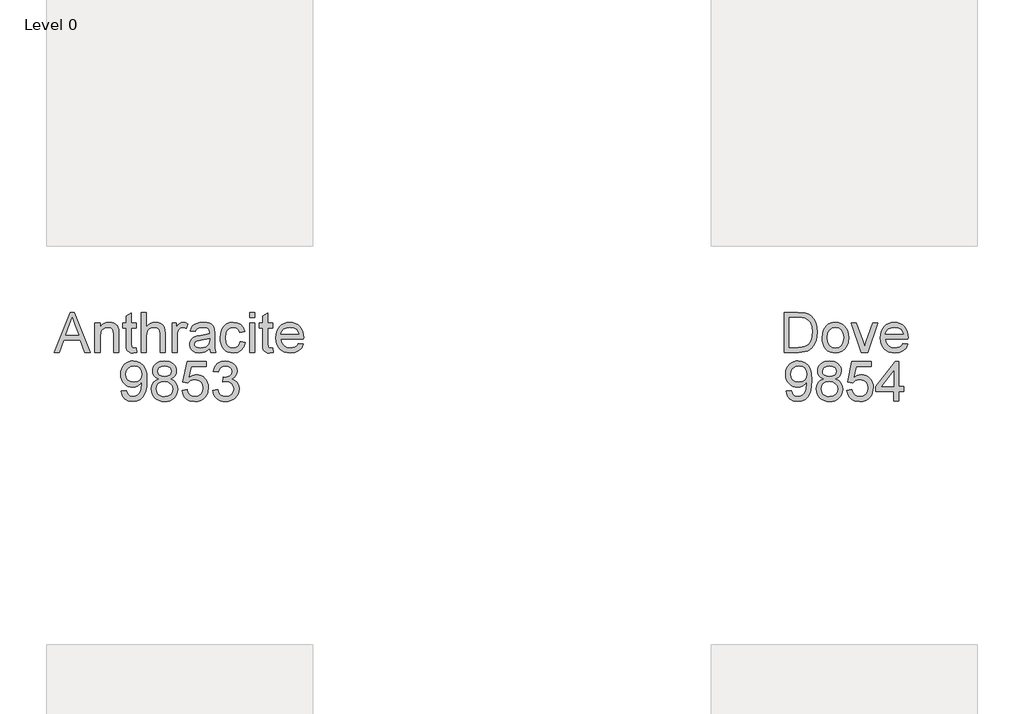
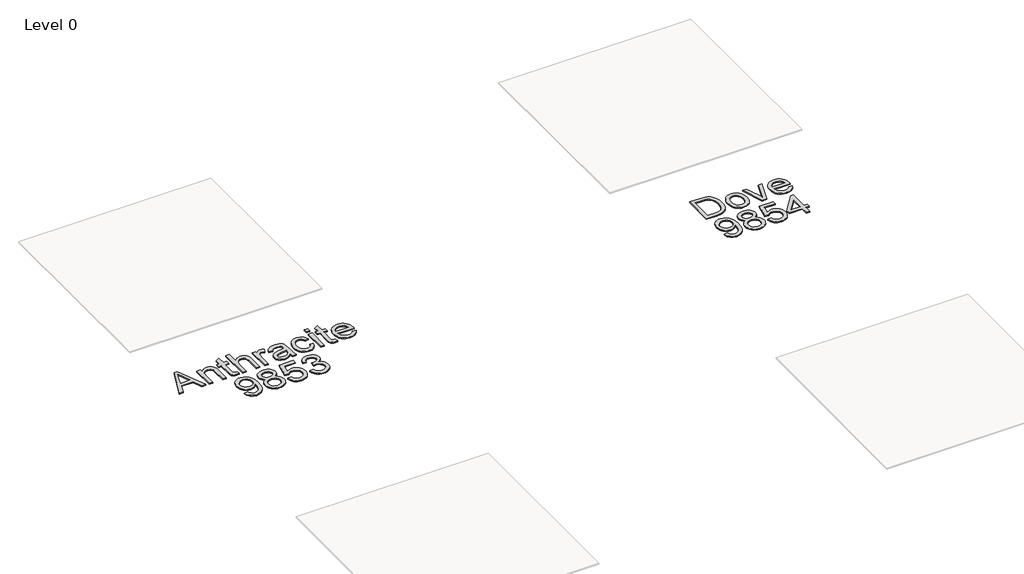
# One storey, part 6 of 8: 2 proxies.
"""IFC4 building model written with IfcOpenShell, lengths in millimetres."""

from ifc_helpers import new_model, si_unit, origin, origin_with_axes, place, context, project, spatial, polyline, outline, extrude, element, save

model = new_model("IFC4")

# Units and contexts
model_context = context("Model", 3, world=origin())
ifc_project = project(units=[si_unit("LENGTHUNIT", "METRE", prefix="MILLI")], contexts=[model_context])

# Site, building, storey
site = spatial("IfcSite", under=ifc_project)
building = spatial("IfcBuilding", under=site)
storey = spatial("IfcBuildingStorey", under=building, Name="Level 0", Elevation=0.0)

# Proxies
placement = place(None, origin())
element("IfcBuildingElementProxy", 1, Name="300mm Arial", ObjectType="300mm Arial", at=placement, inside=storey, context=model_context, shape_type="SweptSolid", body=[
    extrude(outline(polyline([(-394.5696795, -7002.860494), (-274.2722671, -6701.4915635), (-242.1929571, -6701.4915635), (-121.8955447, -7002.860494), (-161.7003766, -7002.860494), (-196.2077077, -6908.6827032), (-320.3310929, -6908.6827032), (-354.7648477, -7002.860494), (-394.5696795, -7002.860494)]), holes=[polyline([(-306.4987299, -6871.0115869), (-209.9664944, -6871.0115869), (-237.1161856, -6796.9201531), (-258.2326121, -6739.1626798), (-276.9945939, -6790.44543), (-306.4987299, -6871.0115869)])]), origin_with_axes(), (0.0, 0.0, 1.0), 10.0),
    extrude(outline(polyline([(-86.358144, -7002.860494), (-86.358144, -6781.5426857), (-48.6870277, -6781.5426857), (-48.6870277, -6812.4447733), (-35.5996257, -6796.8649708), (-19.8818674, -6785.7365404), (-1.5337529, -6779.0594822), (19.4447178, -6776.8337961), (38.0135615, -6778.6272209), (55.0189068, -6784.0074951), (69.2007577, -6792.303234), (79.2991185, -6802.8430532), (90.5930957, -6830.5445674), (92.5796585, -6866.964885), (92.5796585, -7002.860494), (54.9085422, -7002.860494), (54.9085422, -6872.0416565), (50.5675346, -6838.7115477), (44.5618611, -6828.7879309), (35.2268554, -6821.0900002), (23.2614935, -6816.1511844), (9.3647512, -6814.5049125), (-12.6989715, -6818.2021265), (-31.5069385, -6829.2937687), (-39.0232275, -6838.3482643), (-44.3920054, -6850.7228949), (-48.6870277, -6885.4325611), (-48.6870277, -7002.860494), (-86.358144, -7002.860494)])), origin_with_axes(), (0.0, 0.0, 1.0), 10.0),
    extrude(outline(polyline([(224.4285656, -6971.4433716), (229.1374551, -7003.96414), (200.9576943, -7007.5693835), (182.8762942, -7006.005885), (169.3934191, -7001.3153896), (159.8652754, -6994.0865084), (153.6480697, -6984.9078526), (150.2267671, -6969.1441091), (149.0863329, -6942.1599648), (149.0863329, -6819.213802), (120.8329957, -6819.213802), (120.8329957, -6781.5426857), (149.0863329, -6781.5426857), (149.0863329, -6727.758338), (186.7574492, -6705.6118419), (186.7574492, -6781.5426857), (224.4285656, -6781.5426857), (224.4285656, -6819.213802), (186.7574492, -6819.213802), (186.7574492, -6941.0563188), (188.744012, -6960.4804881), (195.1819469, -6967.3598814), (208.0210286, -6969.8982672), (224.4285656, -6971.4433716)])), origin_with_axes(), (0.0, 0.0, 1.0), 10.0),
    extrude(outline(polyline([(262.0996819, -7002.860494), (262.0996819, -6701.4915635), (299.7707982, -6701.4915635), (299.7707982, -6812.2976205), (313.6077597, -6796.7821973), (329.1461755, -6785.6997522), (346.3860455, -6779.0502852), (365.3273697, -6776.8337961), (388.0808711, -6779.2526203), (407.6337992, -6786.5090926), (423.0296606, -6798.0329961), (433.3119624, -6813.2541137), (439.1061038, -6834.1682051), (441.0374843, -6862.7710302), (441.0374843, -7002.860494), (403.366368, -7002.860494), (403.366368, -6866.6705794), (400.3681297, -6843.0893435), (391.373415, -6826.9393239), (376.8788644, -6817.6135153), (357.3811186, -6814.5049125), (341.4610253, -6816.6018398), (326.5158192, -6822.8926219), (314.1365901, -6832.7702535), (305.9144275, -6845.6277292), (301.3067055, -6862.7158479), (299.7707982, -6885.2854083), (299.7707982, -7002.860494), (262.0996819, -7002.860494)])), origin_with_axes(), (0.0, 0.0, 1.0), 10.0),
    extrude(outline(polyline([(492.8352692, -7002.860494), (492.8352692, -6781.5426857), (525.797496, -6781.5426857), (525.797496, -6814.2841833), (537.97439, -6795.3014723), (549.1947909, -6784.1178596), (560.4519799, -6778.654812), (572.7392386, -6776.8337961), (591.5012203, -6779.7400639), (610.5575077, -6788.4588672), (597.9759435, -6822.2304343), (584.7321916, -6816.4362929), (571.4884398, -6814.5049125), (560.2404478, -6816.3627165), (550.1880723, -6821.9361288), (542.0670772, -6830.8020848), (536.6132267, -6842.5375205), (532.0330958, -6863.5803706), (530.5063855, -6886.5362071), (530.5063855, -7002.860494), (492.8352692, -7002.860494)])), origin_with_axes(), (0.0, 0.0, 1.0), 10.0),
    extrude(outline(polyline([(775.3686415, -6974.6071568), (757.3700149, -6990.0398064), (738.8379594, -7000.1381672), (719.3494107, -7005.7115794), (698.4813045, -7007.5693835), (666.9998028, -7003.0996173), (643.7772519, -6989.6903186), (629.4574452, -6969.3280501), (624.6841763, -6943.9993748), (626.4867981, -6928.3827841), (631.8946634, -6914.2009331), (640.2363877, -6902.0608273), (650.8405862, -6892.5694718), (677.2177252, -6880.2086368), (709.81207, -6874.5432541), (748.3293149, -6868.5835657), (775.1479123, -6861.5938078), (775.3686415, -6853.2060983), (772.7750735, -6836.3938912), (764.9943693, -6825.3942195), (747.5935509, -6817.2272392), (723.3501274, -6814.5049125), (700.9093257, -6816.3167313), (685.2375527, -6821.7521878), (674.5505808, -6831.8045633), (667.0641821, -6847.4671392), (629.3930658, -6842.7582497), (635.9321683, -6822.156858), (645.6902382, -6805.9700502), (659.5777835, -6793.590821), (678.5053122, -6784.4121652), (701.6542867, -6778.7283884), (728.2061697, -6776.8337961), (753.6728009, -6778.5076592), (773.8603253, -6783.5292485), (789.0814429, -6791.0800264), (799.6488532, -6800.3414556), (806.6570052, -6811.7917827), (811.2003479, -6825.9092543), (813.0397578, -6858.8714811), (813.0397578, -6905.7396473), (814.9527442, -6971.1858542), (822.4575369, -7002.860494), (784.7864206, -7002.860494), (775.3686415, -6974.6071568)]), holes=[polyline([(775.3686415, -6899.2649241), (714.5945359, -6910.8164188), (682.1841322, -6916.9232599), (667.5056405, -6926.8560738), (662.3552926, -6941.3506244), (665.1603928, -6952.5526311), (673.5756935, -6961.7312869), (687.4172535, -6967.8565221), (706.501132, -6969.8982672), (726.7346418, -6967.64499), (744.6137067, -6960.8851583), (759.1082573, -6950.9247533), (769.188224, -6939.069756), (773.6579903, -6926.8560738), (775.1479123, -6909.933502), (775.3686415, -6899.2649241)])]), origin_with_axes(), (0.0, 0.0, 1.0), 10.0),
    extrude(outline(polyline([(1006.1042289, -6922.8093718), (1043.7753452, -6927.5182614), (1033.2723142, -6961.0231141), (1013.5354452, -6986.3425924), (986.4225422, -7002.2626857), (953.7914092, -7007.5693835), (932.6634864, -7005.7184772), (913.7198629, -7000.1657584), (896.9605387, -6990.9112269), (882.3855139, -6977.9548829), (870.5879982, -6961.5404481), (862.1612012, -6941.9116444), (857.1051231, -6919.0684718), (855.4197637, -6893.0109302), (858.2984403, -6859.4876834), (866.9344701, -6830.4342028), (881.4658089, -6806.9725286), (902.0304125, -6790.2247008), (926.6325209, -6780.1815223), (953.2763744, -6776.8337961), (985.107364, -6781.4323211), (1010.555601, -6795.2278959), (1028.8117451, -6817.4847566), (1039.0664557, -6847.4671392), (1001.3953394, -6852.1760288), (994.5619313, -6835.7409006), (983.9209446, -6823.9594797), (970.0609904, -6816.8685543), (953.57068, -6814.5049125), (929.226089, -6819.1586197), (909.9030872, -6833.1197414), (897.2939318, -6857.1424357), (893.09088, -6891.9808606), (897.2019613, -6927.2883351), (909.5352052, -6951.3938029), (928.5087191, -6965.2721511), (952.5406104, -6969.8982672), (972.0475532, -6967.0103936), (988.0412229, -6958.3467726), (999.675491, -6943.6866751), (1006.1042289, -6922.8093718)])), origin_with_axes(), (0.0, 0.0, 1.0), 10.0),
    extrude(outline(polyline([(1076.737572, -6739.1626798), (1076.737572, -6701.4915635), (1114.4086883, -6701.4915635), (1114.4086883, -6739.1626798), (1076.737572, -6739.1626798)])), origin_with_axes(), (0.0, 0.0, 1.0), 10.0),
    extrude(outline(polyline([(1076.737572, -7002.860494), (1076.737572, -6781.5426857), (1114.4086883, -6781.5426857), (1114.4086883, -7002.860494), (1076.737572, -7002.860494)])), origin_with_axes(), (0.0, 0.0, 1.0), 10.0),
    extrude(outline(polyline([(1250.9664849, -6971.4433716), (1255.6753744, -7003.96414), (1227.4956136, -7007.5693835), (1209.4142135, -7006.005885), (1195.9313384, -7001.3153896), (1186.4031947, -6994.0865084), (1180.185989, -6984.9078526), (1176.7646865, -6969.1441091), (1175.6242523, -6942.1599648), (1175.6242523, -6819.213802), (1147.3709151, -6819.213802), (1147.3709151, -6781.5426857), (1175.6242523, -6781.5426857), (1175.6242523, -6727.758338), (1213.2953686, -6705.6118419), (1213.2953686, -6781.5426857), (1250.9664849, -6781.5426857), (1250.9664849, -6819.213802), (1213.2953686, -6819.213802), (1213.2953686, -6941.0563188), (1215.2819314, -6960.4804881), (1221.7198663, -6967.3598814), (1234.5589479, -6969.8982672), (1250.9664849, -6971.4433716)])), origin_with_axes(), (0.0, 0.0, 1.0), 10.0),
    extrude(outline(polyline([(1443.5894976, -6936.9360404), (1480.5248499, -6941.64493), (1467.2167187, -6969.4752029), (1445.9807305, -6990.2789297), (1417.295132, -7003.2467701), (1381.6381696, -7007.5693835), (1358.2638673, -7005.7046817), (1337.4371479, -7000.1105761), (1319.1580112, -6990.7870668), (1303.4264574, -6977.7341537), (1290.7759153, -6961.3151204), (1281.7398138, -6941.8932503), (1276.3181529, -6919.4685435), (1274.5109326, -6894.0409998), (1276.336547, -6867.7512327), (1281.8133902, -6844.5792656), (1290.9414622, -6824.5250983), (1303.720763, -6807.5887309), (1319.4109301, -6794.133447), (1337.271601, -6784.5225298), (1357.3027756, -6778.7559796), (1379.504454, -6776.8337961), (1400.9910618, -6778.751381), (1420.4221289, -6784.5041357), (1437.7976554, -6794.0920602), (1453.1176412, -6807.5151545), (1465.6233298, -6824.4147337), (1474.5559645, -6844.4321128), (1479.9155453, -6867.5672917), (1481.7020723, -6893.8202706), (1481.4813431, -6903.9738137), (1312.1820489, -6903.9738137), (1318.7027573, -6932.1719686), (1333.8502984, -6952.902119), (1355.711686, -6965.6492302), (1382.3739336, -6969.8982672), (1402.4235023, -6967.9300985), (1419.3092859, -6962.0255925), (1433.0312843, -6951.8168672), (1443.5894976, -6936.9360404)]), holes=[polyline([(1312.1820489, -6866.3026974), (1444.030956, -6866.3026974), (1438.9357903, -6846.4002814), (1428.9477942, -6832.1632482), (1406.985239, -6818.9194964), (1379.3573012, -6814.5049125), (1353.9642465, -6818.0273826), (1332.9673816, -6828.5947929), (1318.3716635, -6845.0667092), (1312.1820489, -6866.3026974)])]), origin_with_axes(), (0.0, 0.0, 1.0), 10.0),
    extrude(outline(polyline([(111.4152166, -7293.4427149), (149.0863329, -7288.7338254), (155.5242679, -7310.1169663), (166.0089047, -7324.6758963), (180.2827261, -7333.0360146), (198.0882147, -7335.8227207), (214.0634903, -7334.029296), (228.5856321, -7328.6490218), (240.6521615, -7320.2705094), (249.2606002, -7309.4823699), (261.5846471, -7276.7408723), (267.0293006, -7233.0364913), (266.8085714, -7225.6788514), (253.7579576, -7241.6081418), (236.679036, -7254.2264942), (216.8042112, -7262.4486568), (195.3658879, -7265.1893777), (177.4707281, -7263.5155146), (161.0149066, -7258.4939254), (145.9984234, -7250.12461), (132.4212786, -7238.4075684), (121.1709873, -7223.9544045), (113.135065, -7207.3767221), (108.3135116, -7188.6745212), (106.7063271, -7167.8478018), (108.3916865, -7146.326705), (113.4477647, -7127.0129003), (121.8745616, -7109.9063875), (133.6720773, -7095.0071667), (148.0079788, -7082.9360387), (164.0499331, -7074.3138045), (181.7979401, -7069.1404639), (201.2519999, -7067.4160171), (229.3489872, -7071.3523544), (254.925983, -7083.1613665), (276.318321, -7102.254442), (291.8613353, -7128.0429699), (301.3250996, -7163.6907352), (304.4796877, -7212.3615232), (301.3342966, -7263.96617), (291.8981235, -7303.8537754), (276.2539416, -7333.8269609), (254.4845246, -7355.6883485), (227.5279714, -7369.0424649), (196.3223811, -7373.4938371), (164.1143124, -7368.2423216), (138.4177551, -7352.4877751), (120.4467196, -7327.2234791), (111.4152166, -7293.4427149)]), holes=[polyline([(266.8085714, -7166.964885), (262.7434754, -7141.4338745), (250.5481872, -7121.788976), (231.6206586, -7109.262594), (207.358841, -7105.0871334), (182.1957125, -7109.5844908), (162.0357792, -7123.0765629), (148.7920273, -7143.7239399), (144.3774434, -7169.6872117), (148.552904, -7192.964945), (161.079286, -7211.4418182), (180.7425786, -7223.4991506), (206.3287714, -7227.5182614), (230.3974509, -7223.4991506), (249.775635, -7211.4418182), (262.5503373, -7192.2843633), (266.8085714, -7166.964885)])]), origin_with_axes(), (0.0, 0.0, 1.0), 10.0),
    extrude(outline(polyline([(392.3299082, -7202.7965913), (372.1607778, -7192.8637774), (358.006518, -7179.3992964), (349.6463997, -7162.6790597), (346.8596935, -7142.9789789), (348.3772068, -7127.6153071), (352.9297465, -7113.5300252), (360.5173126, -7100.7231332), (371.1399052, -7089.1946312), (384.287088, -7079.6664875), (399.4484248, -7072.8606706), (435.81356, -7067.4160171), (472.3994244, -7072.9894293), (487.726308, -7079.9561946), (501.0758259, -7089.709666), (511.8915566, -7101.4634957), (519.6170785, -7114.4313361), (524.2523916, -7128.613187), (525.797496, -7144.0090485), (523.0475781, -7163.0745329), (514.7978243, -7179.509661), (500.9562643, -7192.8913686), (481.4309274, -7202.7965913), (504.6166901, -7214.7435591), (521.4932767, -7232.3375155), (531.7847755, -7254.732332), (535.2152751, -7281.0818799), (533.5138209, -7299.8714528), (528.4094582, -7317.0975272), (519.902187, -7332.7601031), (507.9920074, -7346.8591806), (493.3043188, -7358.5118428), (476.4645204, -7366.8351729), (457.4726124, -7371.829171), (436.3285948, -7373.4938371), (415.1845771, -7371.8222732), (396.1926691, -7366.8075818), (379.3528708, -7358.4497627), (364.6651821, -7346.748816), (352.7550025, -7332.5508703), (344.2477314, -7316.702054), (339.1433687, -7299.2023674), (337.4419145, -7280.0518103), (341.0103698, -7252.6813898), (351.7157359, -7230.1670117), (369.0061897, -7213.2812282), (392.3299082, -7202.7965913)]), holes=[polyline([(375.1130308, -7278.7274351), (381.4038129, -7307.0911369), (390.1134191, -7319.2588339), (403.6606736, -7328.317928), (419.8842696, -7333.9465226), (436.6229004, -7335.8227207), (462.2642754, -7331.8771864), (481.5045038, -7320.0405832), (493.534245, -7302.1155329), (497.5441588, -7279.9046575), (493.4054863, -7257.316703), (480.989469, -7238.9961796), (461.3077822, -7226.8560738), (435.3721016, -7222.8093718), (410.0894115, -7226.8008915), (391.0423212, -7238.7754504), (379.0953534, -7256.7464859), (375.1130308, -7278.7274351)]), polyline([(384.5308099, -7144.0826249), (387.869339, -7160.52695), (397.8849263, -7173.6603373), (414.2832662, -7182.268776), (436.7700532, -7185.1382555), (458.7326083, -7182.2871701), (474.8826279, -7173.7339137), (484.8154417, -7161.0419848), (488.1263797, -7145.774882), (484.7050771, -7129.9283651), (474.4411695, -7116.822569), (458.0704207, -7108.0209923), (436.3285948, -7105.0871334), (414.4488131, -7107.9566129), (398.1056555, -7116.5650516), (387.9245213, -7129.1834041), (384.5308099, -7144.0826249)])]), origin_with_axes(), (0.0, 0.0, 1.0), 10.0),
    extrude(outline(polyline([(568.1775018, -7288.7338254), (605.8486182, -7284.0249358), (612.7647997, -7306.6404815), (624.8313291, -7322.8364863), (641.9930242, -7332.5761621), (664.1947026, -7335.8227207), (691.197241, -7331.3069693), (711.4307508, -7317.7597148), (724.0674973, -7296.7444558), (728.2797461, -7269.8246908), (724.3342117, -7244.4776213), (712.4976086, -7225.0902402), (692.6779661, -7212.7845875), (664.7833138, -7208.6827032), (646.5087757, -7210.3197781), (631.7107224, -7215.2310027), (610.5575077, -7232.2271509), (572.8863914, -7227.5182614), (605.8486182, -7072.1249066), (751.8241938, -7072.1249066), (751.8241938, -7109.7960229), (636.3092474, -7109.7960229), (620.196016, -7192.790201), (647.1065839, -7176.4562404), (675.3047388, -7171.0115869), (693.6505541, -7172.6992456), (710.5018487, -7177.7622215), (725.8586228, -7186.2005148), (739.7208762, -7198.0141254), (751.1964952, -7212.4810848), (759.3933659, -7228.8794248), (764.3114883, -7247.2091452), (765.9508625, -7267.470246), (760.0463564, -7305.1413624), (752.6657239, -7321.9351754), (742.3328384, -7337.3678251), (726.6794595, -7353.1729553), (708.4141184, -7364.4623341), (687.5368152, -7371.2359613), (664.0475498, -7373.4938371), (627.0478181, -7367.6904986), (611.3691473, -7360.4363255), (597.5712733, -7350.2804832), (586.0910557, -7337.7288093), (577.3653547, -7323.2871418), (568.1775018, -7288.7338254)])), origin_with_axes(), (0.0, 0.0, 1.0), 10.0),
    extrude(outline(polyline([(798.9130892, -7288.7338254), (836.5842055, -7284.0249358), (845.0179003, -7307.6981422), (857.3695383, -7323.6826149), (874.2461248, -7332.7876943), (896.2546651, -7335.8227207), (922.0799812, -7331.6472601), (942.0191853, -7319.1208782), (954.7662965, -7300.4324728), (959.0153335, -7277.7709419), (954.8030847, -7256.2590422), (942.1663381, -7238.8122386), (923.0364744, -7227.2515469), (899.3448739, -7223.397983), (872.9309467, -7227.5182614), (877.1248014, -7189.8471451), (883.1580661, -7190.2886035), (905.7276265, -7187.5846708), (925.905954, -7179.4728728), (940.1429872, -7165.7508744), (944.8886649, -7146.2163404), (941.4489683, -7129.9467592), (931.1298783, -7116.7489926), (915.3845289, -7108.0025982), (895.666054, -7105.0871334), (875.9107908, -7108.0301893), (859.7607712, -7116.8593572), (847.9701533, -7131.574637), (841.2930951, -7152.1760288), (803.6219788, -7147.4671392), (814.7136209, -7113.6403898), (834.45049, -7088.3852908), (861.4530284, -7072.6583355), (894.3416788, -7067.4160171), (918.0240822, -7070.0003881), (939.7751052, -7077.7535011), (958.1140226, -7089.9855775), (971.5601096, -7106.0068384), (979.8098633, -7124.4653175), (982.5597812, -7144.0090485), (979.947819, -7162.2192072), (972.1119325, -7178.7371088), (959.1624863, -7192.8085951), (941.209845, -7203.6795081), (964.7910808, -7213.2076518), (982.2654756, -7229.4312477), (993.0812063, -7251.4673793), (996.6864498, -7278.4331295), (994.8838281, -7297.5445992), (989.4759627, -7315.1477526), (980.4628538, -7331.2425899), (967.8445014, -7345.829111), (952.4716325, -7357.9324287), (935.1949743, -7366.5776555), (916.0145268, -7371.7647917), (894.93029, -7373.4938371), (875.8740026, -7372.0177105), (858.5099724, -7367.589331), (842.8381994, -7360.2086985), (828.8586836, -7349.875813), (817.1370436, -7337.1976797), (808.2388978, -7322.781304), (802.1642464, -7306.6266859), (798.9130892, -7288.7338254)])), origin_with_axes(), (0.0, 0.0, 1.0), 10.0),
])
element("IfcBuildingElementProxy", 2, Name="300mm Arial", ObjectType="300mm Arial", at=placement, inside=storey, context=model_context, shape_type="SweptSolid", body=[
    extrude(outline(polyline([(5094.9341033, -7002.860494), (5094.9341033, -6701.4915635), (5198.8975551, -6701.4915635), (5252.6819028, -6705.8325711), (5276.7045971, -6714.2018865), (5296.974895, -6727.390456), (5317.81541, -6750.3462925), (5332.6594485, -6778.8939353), (5341.5437987, -6812.4815615), (5344.5052488, -6850.557348), (5342.5002919, -6882.9033724), (5336.4854213, -6911.3682418), (5327.3251596, -6935.6024682), (5315.8840296, -6955.2565638), (5302.7138541, -6970.771987), (5288.3664563, -6982.590196), (5271.89454, -6991.3549846), (5252.350809, -6997.710146), (5203.9007502, -7002.860494), (5094.9341033, -7002.860494)]), holes=[polyline([(5132.6052196, -6965.1893777), (5199.2654371, -6965.1893777), (5226.8381926, -6963.8282143), (5247.752284, -6959.7447241), (5263.5344216, -6953.1780305), (5275.7113157, -6944.3672567), (5288.7987177, -6928.0608873), (5298.630364, -6906.9536578), (5304.7831903, -6880.9535978), (5306.8341325, -6849.9687368), (5302.8150217, -6808.9131061), (5290.7576893, -6778.5996297), (5272.9430037, -6757.7775088), (5251.6518332, -6745.1959446), (5229.9835837, -6740.670996), (5198.2353675, -6739.1626798), (5132.6052196, -6739.1626798), (5132.6052196, -6965.1893777)])]), origin_with_axes(), (0.0, 0.0, 1.0), 10.0),
    extrude(outline(polyline([(5382.1763651, -6892.2015898), (5384.2135116, -6863.5389839), (5390.3249513, -6838.8403064), (5400.510684, -6818.1055575), (5414.7707099, -6801.334737), (5429.1273047, -6790.6155754), (5444.9738217, -6782.9590314), (5462.3102607, -6778.3651049), (5481.1366218, -6776.8337961), (5501.9196553, -6778.698498), (5520.7115274, -6784.2926036), (5537.5122383, -6793.6161129), (5552.3217879, -6806.669026), (5564.4090107, -6823.0098843), (5573.0427412, -6842.1972296), (5578.2229796, -6864.2310619), (5579.9497257, -6889.1113811), (5576.8963051, -6927.1687735), (5567.7360435, -6956.1394806), (5552.7356551, -6977.8353213), (5532.1618545, -6994.0681143), (5507.725293, -7004.1940662), (5481.1366218, -7007.5693835), (5460.0500857, -7005.7115794), (5441.0834696, -7000.1381672), (5424.2367734, -6990.8491468), (5409.5099973, -6977.8445183), (5397.5515332, -6961.3450108), (5389.0097731, -6941.5713536), (5383.8847171, -6918.5235466), (5382.1763651, -6892.2015898)]), holes=[polyline([(5419.8474814, -6892.1280134), (5424.206883, -6926.2214773), (5437.285088, -6950.5108861), (5456.9667747, -6965.0514219), (5481.1366218, -6969.8982672), (5505.1961043, -6965.0238308), (5524.8410028, -6950.4005215), (5537.9192077, -6925.789216), (5542.2786094, -6890.950791), (5537.8916166, -6857.8506085), (5524.7306382, -6833.8922936), (5505.0581485, -6819.3517577), (5481.1366218, -6814.5049125), (5456.9667747, -6819.3333636), (5437.285088, -6833.8187172), (5424.206883, -6858.0529436), (5419.8474814, -6892.1280134)])]), origin_with_axes(), (0.0, 0.0, 1.0), 10.0),
    extrude(outline(polyline([(5676.629114, -7002.860494), (5598.7852838, -6781.5426857), (5638.6636921, -6781.5426857), (5685.8261639, -6914.1273567), (5700.0264089, -6958.7146546), (5713.9323483, -6916.6289543), (5761.3891257, -6781.5426857), (5801.267534, -6781.5426857), (5724.380197, -7002.860494), (5676.629114, -7002.860494)])), origin_with_axes(), (0.0, 0.0, 1.0), 10.0),
    extrude(outline(polyline([(5989.1816571, -6936.9360404), (6026.1170094, -6941.64493), (6012.8088783, -6969.4752029), (5991.5728901, -6990.2789297), (5962.8872915, -7003.2467701), (5927.2303291, -7007.5693835), (5903.8560269, -7005.7046817), (5883.0293074, -7000.1105761), (5864.7501708, -6990.7870668), (5849.018617, -6977.7341537), (5836.3680749, -6961.3151204), (5827.3319733, -6941.8932503), (5821.9103124, -6919.4685435), (5820.1030921, -6894.0409998), (5821.9287065, -6867.7512327), (5827.4055497, -6844.5792656), (5836.5336218, -6824.5250983), (5849.3129226, -6807.5887309), (5865.0030897, -6794.133447), (5882.8637605, -6784.5225298), (5902.8949352, -6778.7559796), (5925.0966136, -6776.8337961), (5946.5832213, -6778.751381), (5966.0142885, -6784.5041357), (5983.389815, -6794.0920602), (5998.7098008, -6807.5151545), (6011.2154894, -6824.4147337), (6020.1481241, -6844.4321128), (6025.5077049, -6867.5672917), (6027.2942318, -6893.8202706), (6027.0735026, -6903.9738137), (5857.7742084, -6903.9738137), (5864.2949168, -6932.1719686), (5879.442458, -6952.902119), (5901.3038455, -6965.6492302), (5927.9660931, -6969.8982672), (5948.0156619, -6967.9300985), (5964.9014454, -6962.0255925), (5978.6234439, -6951.8168672), (5989.1816571, -6936.9360404)]), holes=[polyline([(5857.7742084, -6866.3026974), (5989.6231155, -6866.3026974), (5984.5279499, -6846.4002814), (5974.5399537, -6832.1632482), (5952.5773986, -6818.9194964), (5924.9494608, -6814.5049125), (5899.5564061, -6818.0273826), (5878.5595412, -6828.5947929), (5863.963823, -6845.0667092), (5857.7742084, -6866.3026974)])]), origin_with_axes(), (0.0, 0.0, 1.0), 10.0),
    extrude(outline(polyline([(5111.4152166, -7293.4427149), (5149.0863329, -7288.7338254), (5155.5242679, -7310.1169663), (5166.0089047, -7324.6758963), (5180.2827261, -7333.0360146), (5198.0882147, -7335.8227207), (5214.0634903, -7334.029296), (5228.5856321, -7328.6490218), (5240.6521615, -7320.2705094), (5249.2606002, -7309.4823699), (5261.5846471, -7276.7408723), (5267.0293006, -7233.0364913), (5266.8085714, -7225.6788514), (5253.7579576, -7241.6081418), (5236.679036, -7254.2264942), (5216.8042112, -7262.4486568), (5195.3658879, -7265.1893777), (5177.4707281, -7263.5155146), (5161.0149066, -7258.4939254), (5145.9984234, -7250.12461), (5132.4212786, -7238.4075684), (5121.1709873, -7223.9544045), (5113.135065, -7207.3767221), (5108.3135116, -7188.6745212), (5106.7063271, -7167.8478018), (5108.3916865, -7146.326705), (5113.4477647, -7127.0129003), (5121.8745616, -7109.9063875), (5133.6720773, -7095.0071667), (5148.0079788, -7082.9360387), (5164.0499331, -7074.3138045), (5181.7979401, -7069.1404639), (5201.2519999, -7067.4160171), (5229.3489872, -7071.3523544), (5254.925983, -7083.1613665), (5276.318321, -7102.254442), (5291.8613353, -7128.0429699), (5301.3250996, -7163.6907352), (5304.4796877, -7212.3615232), (5301.3342966, -7263.96617), (5291.8981235, -7303.8537754), (5276.2539416, -7333.8269609), (5254.4845246, -7355.6883485), (5227.5279714, -7369.0424649), (5196.3223811, -7373.4938371), (5164.1143124, -7368.2423216), (5138.4177551, -7352.4877751), (5120.4467196, -7327.2234791), (5111.4152166, -7293.4427149)]), holes=[polyline([(5266.8085714, -7166.964885), (5262.7434754, -7141.4338745), (5250.5481872, -7121.788976), (5231.6206586, -7109.262594), (5207.358841, -7105.0871334), (5182.1957125, -7109.5844908), (5162.0357792, -7123.0765629), (5148.7920273, -7143.7239399), (5144.3774434, -7169.6872117), (5148.552904, -7192.964945), (5161.079286, -7211.4418182), (5180.7425786, -7223.4991506), (5206.3287714, -7227.5182614), (5230.3974509, -7223.4991506), (5249.775635, -7211.4418182), (5262.5503373, -7192.2843633), (5266.8085714, -7166.964885)])]), origin_with_axes(), (0.0, 0.0, 1.0), 10.0),
    extrude(outline(polyline([(5392.3299082, -7202.7965913), (5372.1607778, -7192.8637774), (5358.006518, -7179.3992964), (5349.6463997, -7162.6790597), (5346.8596935, -7142.9789789), (5348.3772068, -7127.6153071), (5352.9297465, -7113.5300252), (5360.5173126, -7100.7231332), (5371.1399052, -7089.1946312), (5384.287088, -7079.6664875), (5399.4484248, -7072.8606706), (5435.81356, -7067.4160171), (5472.3994244, -7072.9894293), (5487.726308, -7079.9561946), (5501.0758259, -7089.709666), (5511.8915566, -7101.4634957), (5519.6170785, -7114.4313361), (5524.2523916, -7128.613187), (5525.797496, -7144.0090485), (5523.0475781, -7163.0745329), (5514.7978243, -7179.509661), (5500.9562643, -7192.8913686), (5481.4309274, -7202.7965913), (5504.6166901, -7214.7435591), (5521.4932767, -7232.3375155), (5531.7847755, -7254.732332), (5535.2152751, -7281.0818799), (5533.5138209, -7299.8714528), (5528.4094582, -7317.0975272), (5519.902187, -7332.7601031), (5507.9920074, -7346.8591806), (5493.3043188, -7358.5118428), (5476.4645204, -7366.8351729), (5457.4726124, -7371.829171), (5436.3285948, -7373.4938371), (5415.1845771, -7371.8222732), (5396.1926691, -7366.8075818), (5379.3528708, -7358.4497627), (5364.6651821, -7346.748816), (5352.7550025, -7332.5508703), (5344.2477314, -7316.702054), (5339.1433687, -7299.2023674), (5337.4419145, -7280.0518103), (5341.0103698, -7252.6813898), (5351.7157359, -7230.1670117), (5369.0061897, -7213.2812282), (5392.3299082, -7202.7965913)]), holes=[polyline([(5384.5308099, -7144.0826249), (5387.869339, -7160.52695), (5397.8849263, -7173.6603373), (5414.2832662, -7182.268776), (5436.7700532, -7185.1382555), (5458.7326083, -7182.2871701), (5474.8826279, -7173.7339137), (5484.8154417, -7161.0419848), (5488.1263797, -7145.774882), (5484.7050771, -7129.9283651), (5474.4411695, -7116.822569), (5458.0704207, -7108.0209923), (5436.3285948, -7105.0871334), (5414.4488131, -7107.9566129), (5398.1056555, -7116.5650516), (5387.9245213, -7129.1834041), (5384.5308099, -7144.0826249)]), polyline([(5375.1130308, -7278.7274351), (5381.4038129, -7307.0911369), (5390.1134191, -7319.2588339), (5403.6606736, -7328.317928), (5419.8842696, -7333.9465226), (5436.6229004, -7335.8227207), (5462.2642754, -7331.8771864), (5481.5045038, -7320.0405832), (5493.534245, -7302.1155329), (5497.5441588, -7279.9046575), (5493.4054863, -7257.316703), (5480.989469, -7238.9961796), (5461.3077822, -7226.8560738), (5435.3721016, -7222.8093718), (5410.0894115, -7226.8008915), (5391.0423212, -7238.7754504), (5379.0953534, -7256.7464859), (5375.1130308, -7278.7274351)])]), origin_with_axes(), (0.0, 0.0, 1.0), 10.0),
    extrude(outline(polyline([(5568.1775018, -7288.7338254), (5605.8486182, -7284.0249358), (5612.7647997, -7306.6404815), (5624.8313291, -7322.8364863), (5641.9930242, -7332.5761621), (5664.1947026, -7335.8227207), (5691.197241, -7331.3069693), (5711.4307508, -7317.7597148), (5724.0674973, -7296.7444558), (5728.2797461, -7269.8246908), (5724.3342117, -7244.4776213), (5712.4976086, -7225.0902402), (5692.6779661, -7212.7845875), (5664.7833138, -7208.6827032), (5646.5087757, -7210.3197781), (5631.7107224, -7215.2310027), (5610.5575077, -7232.2271509), (5572.8863914, -7227.5182614), (5605.8486182, -7072.1249066), (5751.8241938, -7072.1249066), (5751.8241938, -7109.7960229), (5636.3092474, -7109.7960229), (5620.196016, -7192.790201), (5647.1065839, -7176.4562404), (5675.3047388, -7171.0115869), (5693.6505541, -7172.6992456), (5710.5018487, -7177.7622215), (5725.8586228, -7186.2005148), (5739.7208762, -7198.0141254), (5751.1964952, -7212.4810848), (5759.3933659, -7228.8794248), (5764.3114883, -7247.2091452), (5765.9508625, -7267.470246), (5760.0463564, -7305.1413624), (5752.6657239, -7321.9351754), (5742.3328384, -7337.3678251), (5726.6794595, -7353.1729553), (5708.4141184, -7364.4623341), (5687.5368152, -7371.2359613), (5664.0475498, -7373.4938371), (5627.0478181, -7367.6904986), (5611.3691473, -7360.4363255), (5597.5712733, -7350.2804832), (5586.0910557, -7337.7288093), (5577.3653547, -7323.2871418), (5568.1775018, -7288.7338254)])), origin_with_axes(), (0.0, 0.0, 1.0), 10.0),
    extrude(outline(polyline([(5921.3442172, -7368.7849475), (5921.3442172, -7298.1516044), (5784.7864206, -7298.1516044), (5784.7864206, -7260.4804881), (5930.7619963, -7072.1249066), (5959.0153335, -7072.1249066), (5959.0153335, -7260.4804881), (5996.6864498, -7260.4804881), (5996.6864498, -7298.1516044), (5959.0153335, -7298.1516044), (5959.0153335, -7368.7849475), (5921.3442172, -7368.7849475)]), holes=[polyline([(5921.3442172, -7260.4804881), (5921.3442172, -7144.0826249), (5831.139552, -7260.4804881), (5921.3442172, -7260.4804881)])]), origin_with_axes(), (0.0, 0.0, 1.0), 10.0),
])

save(model, "model.ifc")
